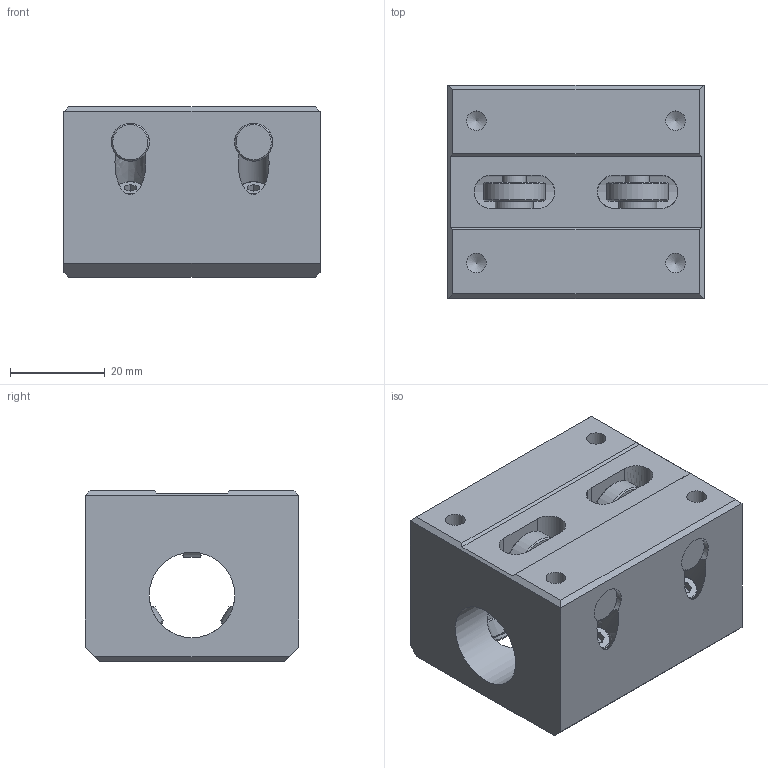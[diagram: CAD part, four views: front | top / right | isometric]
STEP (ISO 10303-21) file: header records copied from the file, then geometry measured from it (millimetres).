
FILE_DESCRIPTION((''),'2;1');
FILE_NAME('D:\製品 (図面)\カタログ用3D\リニアガイド関連\STEP形式\SLHB\SLHB16.stp','2010-06-02T16:59:50',('Tsuchiya'),(''),'Autodesk Inventor 10','Autodesk Inventor 10','');
FILE_SCHEMA(('AUTOMOTIVE_DESIGN { 1 0 10303 214 1 1 1 1 }'));
Length unit declared in the file: millimetre
Products named in the file (1): SLHB16
Bounding box: 54 x 45 x 36 mm (x, y, z)
Volume: 64278.2 mm3; surface area: 20388.6 mm2
Topology: 1 solids, 1 shells, 177 faces, 415 edges, 266 vertices
Faces by surface type: bspline 73, plane 56, cylinder 25, cone 20, torus 3
Full cylindrical faces by diameter (mm): 4.134 x2, 5 x3, 5.5 x3, 6.5 x3, 8 x3, 13 x3, 15 x2, 18 x1
Entity records: 5439 total; most frequent: CARTESIAN_POINT 2132, ORIENTED_EDGE 616, DIRECTION 584, EDGE_CURVE 308, EDGE_LOOP 294, VERTEX_POINT 232, AXIS2_PLACEMENT_3D 223, FACE_OUTER_BOUND 177
